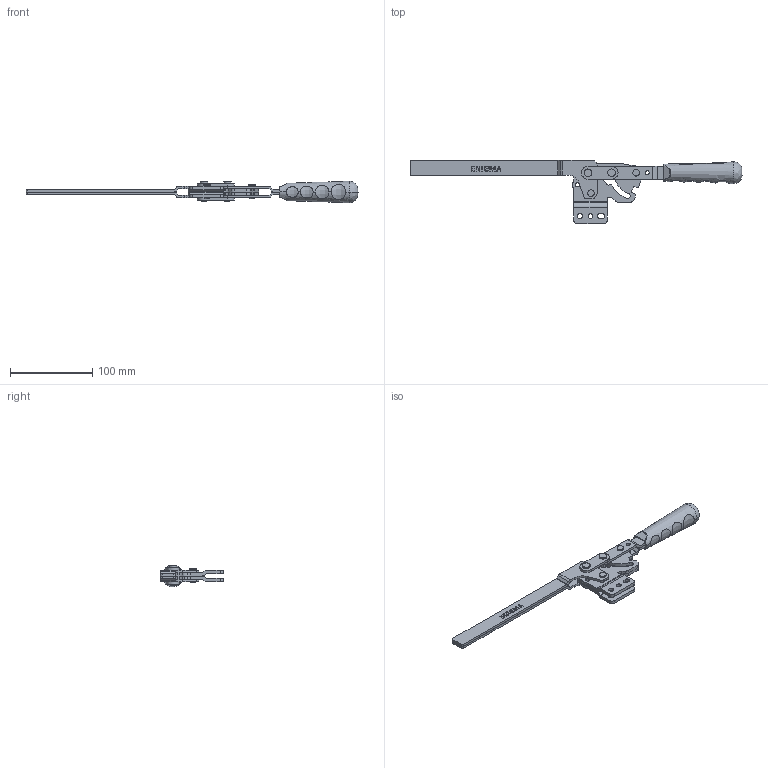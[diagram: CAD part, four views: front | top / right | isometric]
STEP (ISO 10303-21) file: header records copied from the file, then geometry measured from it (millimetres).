
FILE_DESCRIPTION (( 'STEP AP203' ), '1' );
FILE_NAME ('1234_D_L.STEP', '2022-11-26T18:46:44', ( '' ), ( '' ), 'SwSTEP 2.0', 'SolidWorks 2023', '' );
FILE_SCHEMA (( 'CONFIG_CONTROL_DESIGN' ));
Length unit declared in the file: millimetre
Products named in the file (10): 2225_HareketKolu; Aynalama2225_Lama_Bask_X2_0131_X0_Kolu; Pim_5x18_Varsay_X2_0131_X0_lan; Pim_6x24_5_Varsay_X2_0131_X0_lan; 2225_UD_Govde; 2225_KozaMafsal; 1234_D_L; 2225_Lama_Bask_X2_0131_X0_Kolu; Aynalama2225_UD_Govde; C95_Yeni_Tutamak_Varsay_X2_0131_X0_lan
Assembly tree (13 placements, depth 2):
  1234_D_L
    2225_UD_Govde
    2225_Lama_Bask_X2_0131_X0_Kolu
    2225_KozaMafsal  x2
    2225_HareketKolu  x2
    Pim_5x18_Varsay_X2_0131_X0_lan  x2
    Pim_6x24_5_Varsay_X2_0131_X0_lan  x2
    Aynalama2225_Lama_Bask_X2_0131_X0_Kolu
    Aynalama2225_UD_Govde
    C95_Yeni_Tutamak_Varsay_X2_0131_X0_lan
Bounding box: 403.7 x 76.76 x 26.35 mm (x, y, z)
Volume: 111588.3 mm3; surface area: 71693.2 mm2
Topology: 13 solids, 13 shells, 974 faces, 2646 edges, 1739 vertices
Faces by surface type: plane 501, cylinder 248, bspline 223, cone 2
Entity records: 36207 total; most frequent: CARTESIAN_POINT 14898, ORIENTED_EDGE 4554, DIRECTION 3577, EDGE_CURVE 2277, VERTEX_POINT 1505, LINE 1421, VECTOR 1421, AXIS2_PLACEMENT_3D 1078
